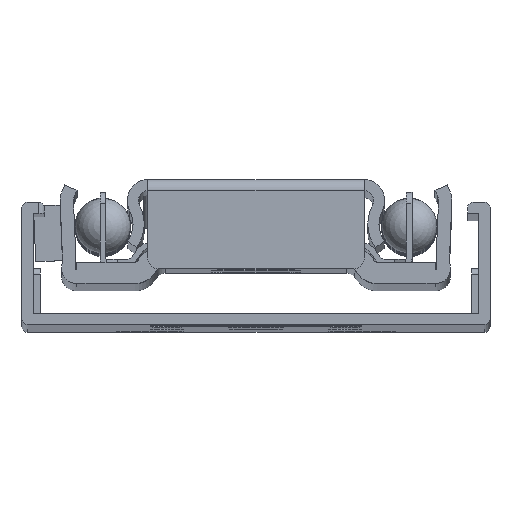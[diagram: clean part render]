
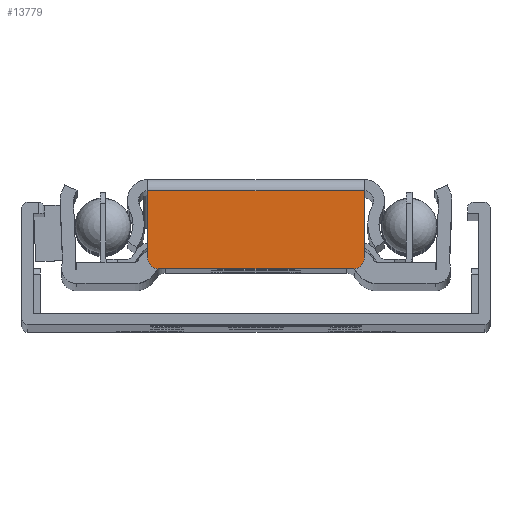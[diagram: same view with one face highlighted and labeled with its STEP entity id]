
A CAD part, top view. The second image highlights one B-rep face of the part: STEP entity #13779.
In plain terms, the highlighted planar face has unit normal (0, 0, 1).
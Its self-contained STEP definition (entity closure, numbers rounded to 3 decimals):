
#656=PLANE('',#15144);
#1344=FACE_OUTER_BOUND('',#2177,.T.);
#2177=EDGE_LOOP('',(#12668,#12669,#12670,#12671,#12672,#12673));
#3524=LINE('',#23359,#4873);
#3525=LINE('',#23362,#4874);
#3526=LINE('',#23366,#4875);
#3527=LINE('',#23369,#4876);
#4873=VECTOR('',#19070,10.);
#4874=VECTOR('',#19073,10.);
#4875=VECTOR('',#19076,10.);
#4876=VECTOR('',#19079,10.);
#5514=CIRCLE('',#15145,1.);
#5515=CIRCLE('',#15146,1.);
#6819=VERTEX_POINT('',#23355);
#6820=VERTEX_POINT('',#23357);
#6821=VERTEX_POINT('',#23361);
#6822=VERTEX_POINT('',#23363);
#6823=VERTEX_POINT('',#23365);
#6824=VERTEX_POINT('',#23367);
#8793=EDGE_CURVE('',#6820,#6819,#3524,.T.);
#8794=EDGE_CURVE('',#6820,#6821,#3525,.T.);
#8795=EDGE_CURVE('',#6822,#6821,#5514,.T.);
#8796=EDGE_CURVE('',#6822,#6823,#3526,.T.);
#8797=EDGE_CURVE('',#6824,#6823,#5515,.T.);
#8798=EDGE_CURVE('',#6819,#6824,#3527,.T.);
#12668=ORIENTED_EDGE('',*,*,#8793,.F.);
#12669=ORIENTED_EDGE('',*,*,#8794,.T.);
#12670=ORIENTED_EDGE('',*,*,#8795,.F.);
#12671=ORIENTED_EDGE('',*,*,#8796,.T.);
#12672=ORIENTED_EDGE('',*,*,#8797,.F.);
#12673=ORIENTED_EDGE('',*,*,#8798,.F.);
#13779=ADVANCED_FACE('',(#1344),#656,.T.);
#15144=AXIS2_PLACEMENT_3D('',#23360,#19071,#19072);
#15145=AXIS2_PLACEMENT_3D('',#23364,#19074,#19075);
#15146=AXIS2_PLACEMENT_3D('',#23368,#19077,#19078);
#19070=DIRECTION('',(-1.,0.,0.));
#19071=DIRECTION('center_axis',(0.,0.,1.));
#19072=DIRECTION('ref_axis',(1.,0.,0.));
#19073=DIRECTION('',(0.,1.,0.));
#19074=DIRECTION('center_axis',(0.,0.,-1.));
#19075=DIRECTION('ref_axis',(0.707,0.707,0.));
#19076=DIRECTION('',(-1.,0.,0.));
#19077=DIRECTION('center_axis',(0.,0.,-1.));
#19078=DIRECTION('ref_axis',(-0.707,0.707,0.));
#19079=DIRECTION('',(0.,1.,0.));
#23355=CARTESIAN_POINT('',(4.892,-4.95,370.75));
#23357=CARTESIAN_POINT('',(24.354,-4.95,370.75));
#23359=CARTESIAN_POINT('',(19.501,-4.95,370.75));
#23360=CARTESIAN_POINT('Origin',(24.354,-5.95,370.75));
#23361=CARTESIAN_POINT('',(24.354,1.05,370.75));
#23362=CARTESIAN_POINT('',(24.354,-5.95,370.75));
#23363=CARTESIAN_POINT('',(23.354,2.05,370.75));
#23364=CARTESIAN_POINT('Origin',(23.354,1.05,370.75));
#23365=CARTESIAN_POINT('',(5.892,2.05,370.75));
#23366=CARTESIAN_POINT('',(24.354,2.05,370.75));
#23367=CARTESIAN_POINT('',(4.892,1.05,370.75));
#23368=CARTESIAN_POINT('Origin',(5.892,1.05,370.75));
#23369=CARTESIAN_POINT('',(4.892,-5.95,370.75));
